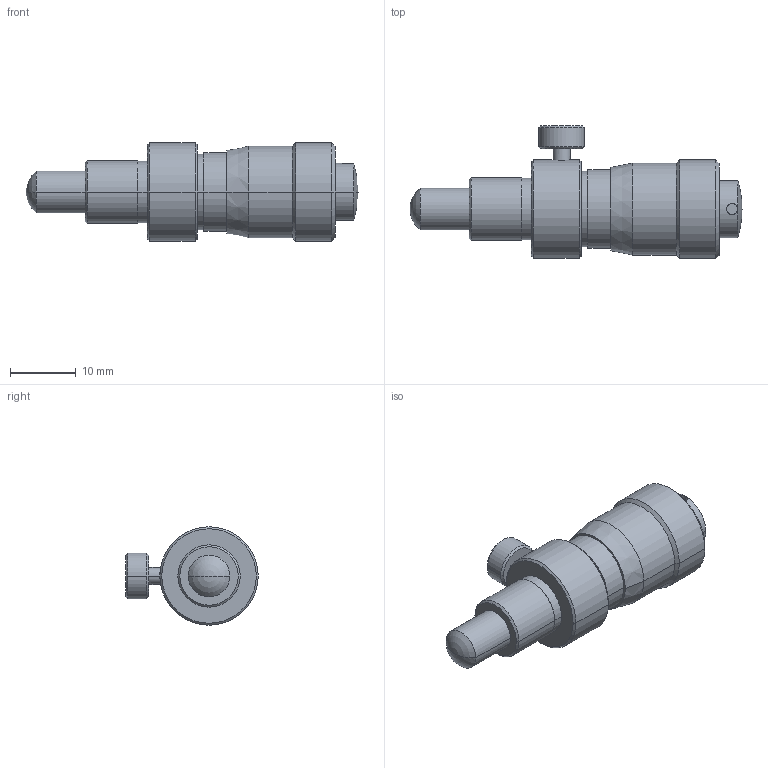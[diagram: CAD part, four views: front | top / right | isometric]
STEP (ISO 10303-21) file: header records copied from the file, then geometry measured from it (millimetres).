
FILE_DESCRIPTION(('Creo Elements/Direct Modeling STEP Export'),'2;1');
FILE_NAME('148-318_MHC3-6.5CLC.stp','2014-11-19T14:57:10',(''),(''),'Creo Elements/Direct Modeling STEP processor for AP214 (Solid Model)','Creo Elements/Direct Modeling 18.1B 29-Sep-2012 (C) Parametric Technology GmbH','');
FILE_SCHEMA(('AUTOMOTIVE_DESIGN { 1 0 10303 214 1 1 1 1 }'));
Length unit declared in the file: millimetre
Products named in the file (2): 148-318_MHC3-6_5CLC.prt; 148-318_MHC3-6_5CLC.stp
Assembly tree (1 placements, depth 2):
  148-318_MHC3-6_5CLC.stp
    148-318_MHC3-6_5CLC.prt
Bounding box: 50.6 x 20.2 x 15 mm (x, y, z)
Volume: 5727.3 mm3; surface area: 2371.1 mm2
Topology: 1 solids, 1 shells, 54 faces, 113 edges, 65 vertices
Faces by surface type: cylinder 24, cone 16, plane 10, sphere 4
Entity records: 1361 total; most frequent: CARTESIAN_POINT 265, DIRECTION 218, ORIENTED_EDGE 218, EDGE_CURVE 109, AXIS2_PLACEMENT_3D 89, VERTEX_POINT 65, EDGE_LOOP 62, FACE_OUTER_BOUND 54
